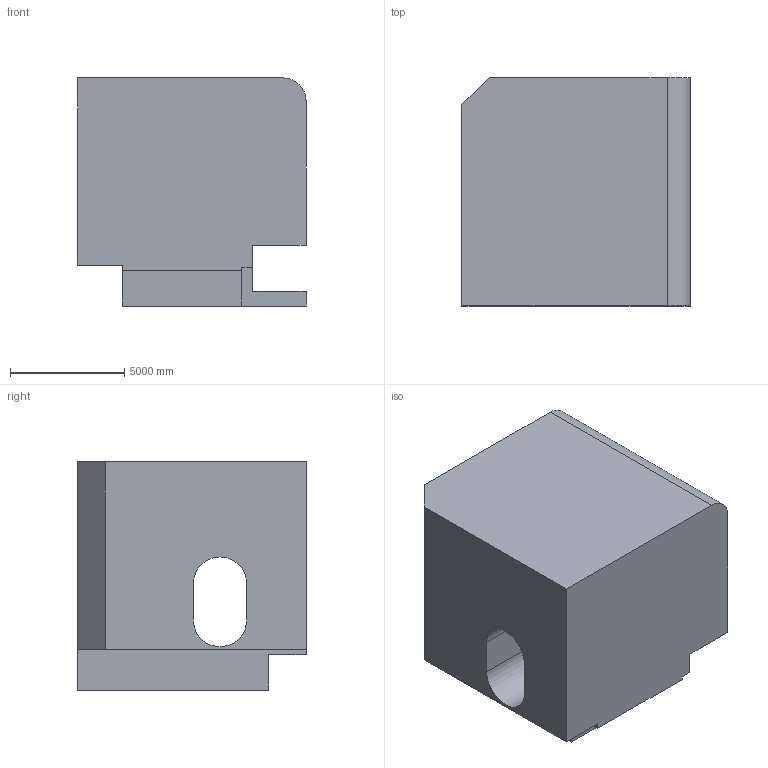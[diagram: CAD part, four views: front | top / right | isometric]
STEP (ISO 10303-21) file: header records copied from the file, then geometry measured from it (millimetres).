
FILE_DESCRIPTION (( 'STEP AP203' ), '1' );
FILE_NAME ('640.STEP', '2022-07-29T12:14:59', ( 'user' ), ( '' ), 'SwSTEP 2.0', 'SolidWorks 2021', '' );
FILE_SCHEMA (( 'CONFIG_CONTROL_DESIGN' ));
Length unit declared in the file: centimetre
Products named in the file (1): 640
Bounding box: 10000 x 10000 x 10000 mm (x, y, z)
Volume: 812008189903.5 mm3; surface area: 676075741 mm2
Topology: 1 solids, 1 shells, 25 faces, 72 edges, 48 vertices
Faces by surface type: plane 21, cylinder 4
Entity records: 897 total; most frequent: CARTESIAN_POINT 146, ORIENTED_EDGE 144, DIRECTION 134, EDGE_CURVE 72, LINE 62, VECTOR 62, VERTEX_POINT 48, AXIS2_PLACEMENT_3D 36
